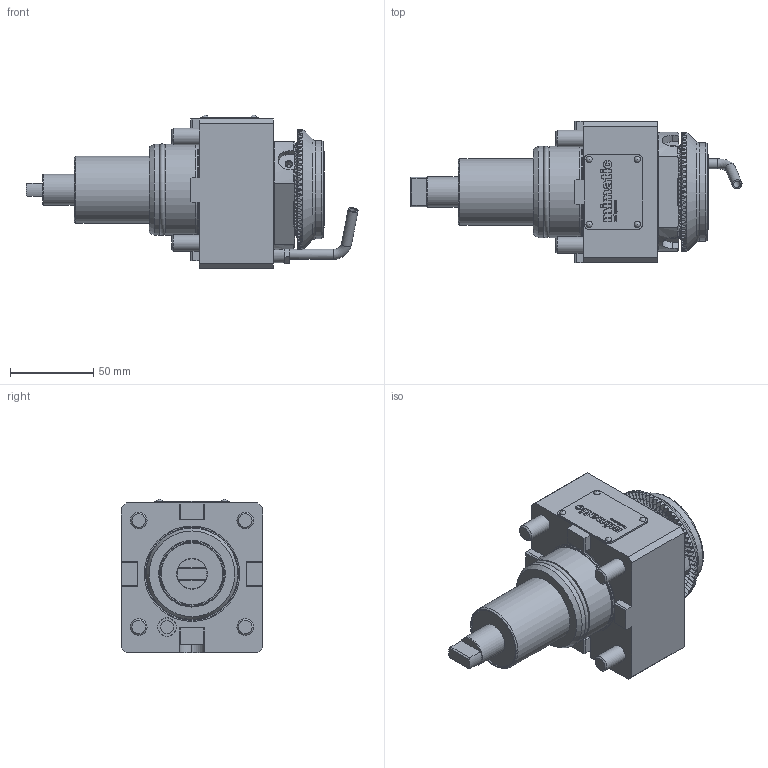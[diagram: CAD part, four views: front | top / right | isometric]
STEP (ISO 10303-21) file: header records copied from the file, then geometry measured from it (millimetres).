
FILE_DESCRIPTION(/* description */ (''),/* implementation_level */ '2;1');
FILE_NAME(/* name */ 'A194474',/* time_stamp */ '2020-05-25T14:39:14+02:00',/* author */ (''),/* organization */ (''),/* preprocessor_version */ 'ST-DEVELOPER v16.5',/* originating_system */ 'HiCAD 2017 2201.0 Build 268',/* authorisation */ '');
FILE_SCHEMA (('AUTOMOTIVE_DESIGN { 1 0 10303 214 1 1 1 1 }'));
Products named in the file (6): Root; Teil; ABCDEFGHIJKLMNOPQRSTUVWXYZ[\]^_`ABCDEFGHIJKLMNOPⴰ圩ƺ
Assembly tree (5 placements, depth 3):
  Root
    Teil
      ABCDEFGHIJKLMNOPQRSTUVWXYZ[\]^_`ABCDEFGHIJKLMNOPⴰ圩ƺ
      ABCDEFGHIJKLMNOPQRSTUVWXYZ[\]^_`ABCDEFGHIJKLMNOPⴰ圩ƺ
      ABCDEFGHIJKLMNOPQRSTUVWXYZ[\]^_`ABCDEFGHIJKLMNOPⴰ圩ƺ
      ABCDEFGHIJKLMNOPQRSTUVWXYZ[\]^_`ABCDEFGHIJKLMNOPⴰ圩ƺ
Bounding box: 199.33 x 85 x 92.3 mm (x, y, z)
Volume: 530843 mm3; surface area: 79963.7 mm2
Topology: 5 solids, 9 shells, 1130 faces, 3095 edges, 2029 vertices
Faces by surface type: plane 614, cone 256, cylinder 187, bspline 38, torus 26, sphere 9
Full cylindrical faces by diameter (mm): 2 x4, 2.2 x4, 4 x5, 5 x3, 6 x2, 6.5 x3, 7.65 x1, 8.16 x8, 10 x6, 11.01 x1, 11.1 x1, 16 x4, 18 x5, 18.5 x1, 36 x1, 40 x1, 45.5 x1, 46 x1, 49.9 x2, 50 x1, 54.5 x1, 54.9 x2, 56 x1, 59 x1, 72 x1
Entity records: 71171 total; most frequent: CARTESIAN_POINT 11600, PRESENTATION_STYLE_ASSIGNMENT 6281, OVER_RIDING_STYLED_ITEM 6276, COLOUR_RGB 5844, DRAUGHTING_PRE_DEFINED_CURVE_FONT 5836, CURVE_STYLE 5836, ORIENTED_EDGE 5836, DIRECTION 5681
